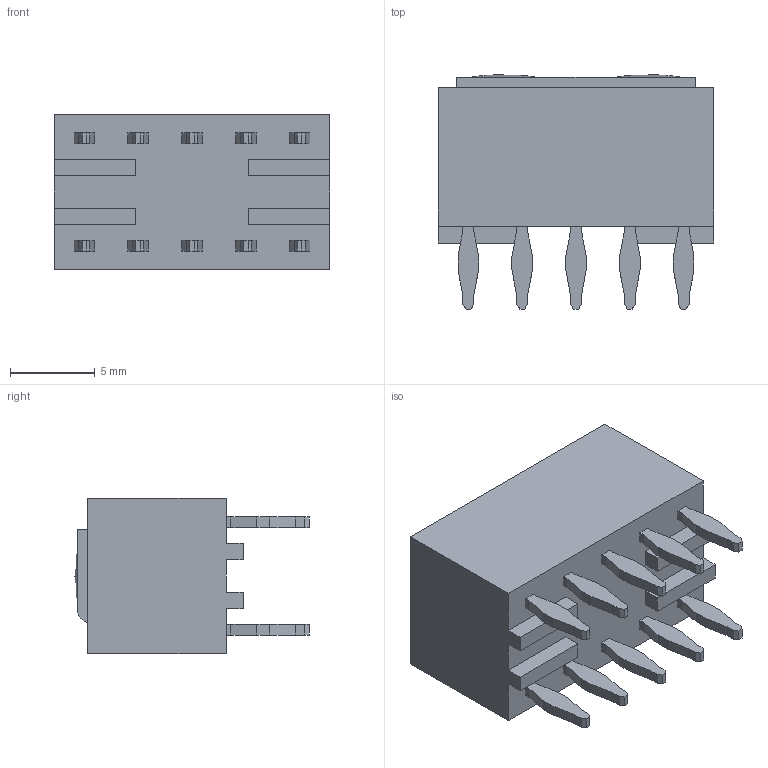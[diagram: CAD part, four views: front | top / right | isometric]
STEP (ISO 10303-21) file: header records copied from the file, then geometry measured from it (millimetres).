
FILE_DESCRIPTION((''),'2;1');
FILE_NAME('760010010','2017-03-22T',('rlalsangi'),(''),'PRO/ENGINEER BY PARAMETRIC TECHNOLOGY CORPORATION, 2012310','PRO/ENGINEER BY PARAMETRIC TECHNOLOGY CORPORATION, 2012310','');
FILE_SCHEMA(('CONFIG_CONTROL_DESIGN'));
Length unit declared in the file: millimetre
Products named in the file (1): 760010010
Bounding box: 16.29 x 13.85 x 9.2 mm (x, y, z)
Volume: 1145.7 mm3; surface area: 1409.4 mm2
Topology: 1 solids, 1 shells, 203 faces, 590 edges, 402 vertices
Faces by surface type: plane 194, sphere 4, cylinder 3, cone 2
Entity records: 6568 total; most frequent: CARTESIAN_POINT 1158, ORIENTED_EDGE 1112, DIRECTION 1040, EDGE_CURVE 556, VECTOR 540, LINE 540, VERTEX_POINT 368, AXIS2_PLACEMENT_3D 250
